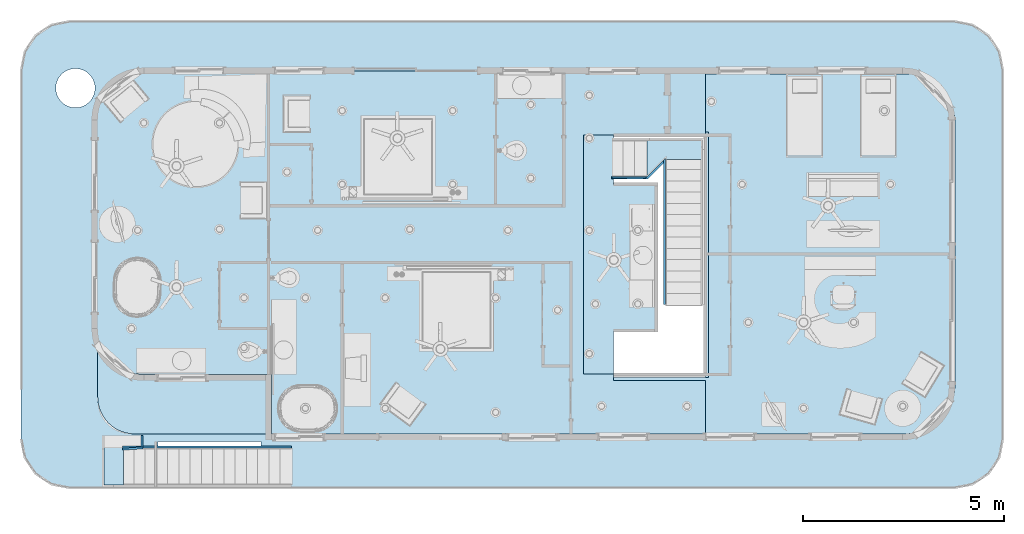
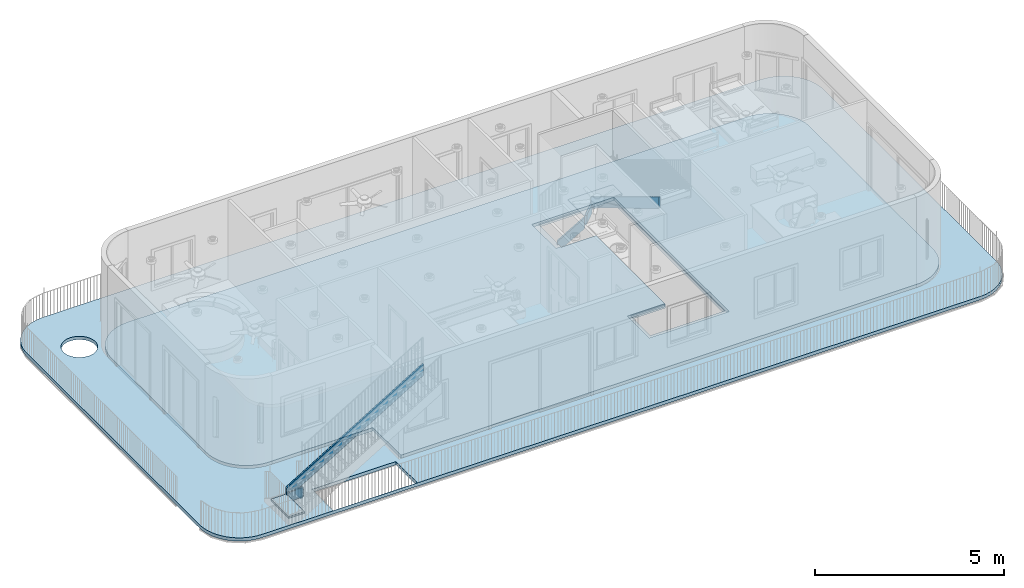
# One storey, part 1 of 28: 7 slabs, 6 members, 7 openings, 2 elements without a shape of their own.
"""IFC2X3 building model written with IfcOpenShell, lengths in feet."""

from ifc_helpers import new_model, entity, si_unit, converted_unit, derived_unit, direction, frame, frame_2d, origin, place, context, subcontext, project, spatial, polyline, circle_curve, parameter, trimmed, segment, composite_curve, rectangle, circle, outline, extrude, faceted_brep, material, layer, layer_set, layer_usage, element, aggregate, save


model = new_model("IFC2X3")

# Units and contexts
model_context = context("Model", 3, precision=0.0001, world=origin(), true_north=direction((6.12303176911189e-17, 1.0)))
body_context = subcontext(model_context, "Body", "Model", "MODEL_VIEW")
ifc_project = project(units=[converted_unit("LENGTHUNIT", "FOOT", entity("IfcRatioMeasure", 0.3048), si_unit("LENGTHUNIT", "METRE"), dimensions=[1, 0, 0, 0, 0, 0, 0]), converted_unit("AREAUNIT", "SQUARE FOOT", entity("IfcRatioMeasure", 0.09290304), si_unit("AREAUNIT", "SQUARE_METRE"), dimensions=[2, 0, 0, 0, 0, 0, 0]), converted_unit("VOLUMEUNIT", "CUBIC FOOT", entity("IfcRatioMeasure", 0.028316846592), si_unit("VOLUMEUNIT", "CUBIC_METRE"), dimensions=[3, 0, 0, 0, 0, 0, 0]), converted_unit("PLANEANGLEUNIT", "DEGREE", entity("IfcRatioMeasure", 0.0174532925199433), si_unit("PLANEANGLEUNIT", "RADIAN"), dimensions=[0, 0, 0, 0, 0, 0, 0]), si_unit("MASSUNIT", "GRAM", prefix="KILO"), derived_unit("MASSDENSITYUNIT", [(si_unit("MASSUNIT", "GRAM", prefix="KILO"), 1), (si_unit("LENGTHUNIT", "METRE"), -3)]), si_unit("TIMEUNIT", "SECOND"), si_unit("FREQUENCYUNIT", "HERTZ"), si_unit("THERMODYNAMICTEMPERATUREUNIT", "DEGREE_CELSIUS"), derived_unit("THERMALTRANSMITTANCEUNIT", [(si_unit("MASSUNIT", "GRAM", prefix="KILO"), 1), (si_unit("THERMODYNAMICTEMPERATUREUNIT", "KELVIN"), -1), (si_unit("TIMEUNIT", "SECOND"), -3)]), derived_unit("VOLUMETRICFLOWRATEUNIT", [(si_unit("LENGTHUNIT", "METRE"), 3), (si_unit("TIMEUNIT", "SECOND"), -1)]), si_unit("ELECTRICCURRENTUNIT", "AMPERE"), si_unit("ELECTRICVOLTAGEUNIT", "VOLT"), si_unit("POWERUNIT", "WATT"), si_unit("FORCEUNIT", "NEWTON"), si_unit("ILLUMINANCEUNIT", "LUX"), si_unit("LUMINOUSFLUXUNIT", "LUMEN"), si_unit("LUMINOUSINTENSITYUNIT", "CANDELA"), derived_unit("USERDEFINED", [(si_unit("MASSUNIT", "GRAM", prefix="KILO"), -1), (si_unit("LENGTHUNIT", "METRE"), -2), (si_unit("TIMEUNIT", "SECOND"), 3), (si_unit("LUMINOUSFLUXUNIT", "LUMEN"), 1)]), derived_unit("LINEARVELOCITYUNIT", [(si_unit("LENGTHUNIT", "METRE"), 1), (si_unit("TIMEUNIT", "SECOND"), -1)]), si_unit("PRESSUREUNIT", "PASCAL"), derived_unit("USERDEFINED", [(si_unit("LENGTHUNIT", "METRE"), -2), (si_unit("MASSUNIT", "GRAM", prefix="KILO"), 1), (si_unit("TIMEUNIT", "SECOND"), -2)])], contexts=[model_context])

# Site, building, storey
site_placement = place(None, origin())
site = spatial("IfcSite", under=ifc_project, at=site_placement, Name="表面", CompositionType="ELEMENT")
building_placement = place(site_placement, origin())
building = spatial("IfcBuilding", under=site, at=building_placement, CompositionType="ELEMENT")
storey_placement = place(building_placement, frame((0.0, 0.0, 10.0)))
storey = spatial("IfcBuildingStorey", under=building, at=storey_placement, Name="Level 2", CompositionType="ELEMENT", Elevation=9.99999999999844)

# Stair, members
stair_1_placement = place(storey_placement, origin())
stair_1 = element("IfcStair", 1, at=stair_1_placement, inside=storey, Name="楼梯:7\" max riser 11\" tread", ObjectType="楼梯:7\" max riser 11\" tread", ShapeType="NOTDEFINED")
ifc_material_1 = material(Name="Metal - Aluminum")
member_1_placement = place(stair_1_placement, origin())
member_1 = element("IfcMember", 2, at=member_1_placement, material=ifc_material_1, Name="楼梯:7\" max riser 11\" tread:2", ObjectType="楼梯:7\" max riser 11\" tread", context=body_context, shape_type="Brep", body=[
    faceted_brep([(8.11092024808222, 7.87145055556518, 0.716073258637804), (8.11092024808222, 8.03811722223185, 0.716073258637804), (8.11092024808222, 8.03811722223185, 0.0), (8.11092024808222, 7.87145055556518, 0.0), (10.7984202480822, 7.87145055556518, 2.2572918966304), (10.7984202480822, 7.87145055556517, 1.10452326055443), (10.9650869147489, 8.03811722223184, 1.20010271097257), (10.9650869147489, 8.03811722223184, 2.35287134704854), (8.87240781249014, 8.03811722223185, 0.0), (8.87240781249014, 7.87145055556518, 0.0)], [[[0, 1, 2, 3]], [[4, 5, 6, 7]], [[1, 0, 4, 7]], [[2, 1, 7, 6, 8]], [[8, 6, 5, 9]], [[0, 3, 9, 5, 4]], [[3, 2, 8, 9]]]),
])
member_2_placement = place(stair_1_placement, origin())
member_2 = element("IfcMember", 3, at=member_2_placement, material=ifc_material_1, Name="楼梯:7\" max riser 11\" tread:3", ObjectType="楼梯:7\" max riser 11\" tread", context=body_context, shape_type="SweptSolid", body=[
    extrude(outline(polyline([(-0.893993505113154, -0.0833333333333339), (0.893993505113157, -0.0833333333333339), (1.06066017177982, 0.0833333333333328), (-1.06066017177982, 0.0833333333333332), (-0.893993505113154, -0.0833333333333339)])), frame((11.6073458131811, 8.56252499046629, 1.47222222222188), z_axis=(0.0, 0.0, 1.0), x_axis=(0.70710678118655, 0.707106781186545, 0.0)), (0.0, 0.0, 1.0), 1.0),
])
member_3_placement = place(stair_1_placement, origin())
member_3 = element("IfcMember", 4, at=member_3_placement, material=ifc_material_1, Name="楼梯:7\" max riser 11\" tread:4", ObjectType="楼梯:7\" max riser 11\" tread", context=body_context, shape_type="Brep", body=[
    faceted_brep([(12.2984202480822, 9.37145055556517, 3.01914607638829), (12.4650869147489, 9.53811722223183, 2.91813597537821), (12.4650869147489, 9.53811722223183, 1.74881589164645), (12.2984202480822, 9.37145055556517, 1.84982599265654), (12.2984202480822, -2.37854944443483, 10.1403581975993), (12.2984202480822, -2.37854944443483, 8.97103811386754), (12.4650869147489, -2.37854944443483, 8.97103811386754), (12.4650869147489, -2.37854944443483, 10.1403581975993)], [[[0, 1, 2, 3]], [[4, 5, 6, 7]], [[1, 0, 4, 7]], [[2, 1, 7, 6]], [[3, 2, 6, 5]], [[0, 3, 5, 4]]]),
])

stair_2_placement = place(storey_placement, origin())
stair_2 = element("IfcStair", 5, at=stair_2_placement, inside=storey, Name="楼梯:7\" max riser 11\" tread", ObjectType="楼梯:7\" max riser 11\" tread", ShapeType="NOTDEFINED")
member_4_placement = place(stair_2_placement, origin())
member_4 = element("IfcMember", 6, at=member_4_placement, material=ifc_material_1, Name="楼梯:7\" max riser 11\" tread:1", ObjectType="楼梯:7\" max riser 11\" tread", context=body_context, shape_type="Brep", body=[
    faceted_brep([(-30.2640797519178, -13.0467729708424, 0.695913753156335), (-30.0974130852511, -13.0467729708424, 0.695913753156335), (-30.0974130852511, -13.0467729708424, 0.0), (-30.2640797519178, -13.0467729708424, 0.0), (-30.2640797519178, -13.9634396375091, 1.2514693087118), (-30.2640797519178, -13.9634396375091, 0.0821492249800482), (-30.0974130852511, -13.951865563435, 0.0751346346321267), (-30.0974130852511, -13.951865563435, 1.24445471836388), (-30.0974130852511, -13.827893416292, 0.0), (-30.2640797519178, -13.827893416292, 0.0)], [[[0, 1, 2, 3]], [[4, 5, 6, 7]], [[1, 0, 4, 7]], [[2, 1, 7, 6, 8]], [[8, 6, 5, 9]], [[0, 3, 9, 5, 4]], [[3, 2, 8, 9]]]),
])
member_5_placement = place(stair_2_placement, origin())
member_5 = element("IfcMember", 7, at=member_5_placement, material=ifc_material_1, Name="楼梯:7\" max riser 11\" tread:3", ObjectType="楼梯:7\" max riser 11\" tread", context=body_context, shape_type="SweptSolid", body=[
    extrude(outline(polyline([(-0.841127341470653, -0.0833333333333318), (0.829553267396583, -0.0833333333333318), (0.841127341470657, 0.0833333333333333), (-0.829553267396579, 0.0833333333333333), (-0.841127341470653, -0.0833333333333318)])), frame((-30.9307464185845, -14.0932699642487, 0.361111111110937), z_axis=(0.0, 0.0, 1.0), x_axis=(-0.99759742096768, -0.0692775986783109, 0.0)), (0.0, 0.0, 1.0), 1.0),
])
member_6_placement = place(stair_2_placement, origin())
member_6 = element("IfcMember", 8, at=member_6_placement, material=ifc_material_1, Name="楼梯:7\" max riser 11\" tread:4", ObjectType="楼梯:7\" max riser 11\" tread", context=body_context, shape_type="SweptSolid", body=[
    extrude(outline(polyline([(-7.73604527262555, -0.500000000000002), (8.34210587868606, -0.500000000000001), (7.73604527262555, 0.5), (-8.34210587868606, 0.499999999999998), (-7.73604527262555, -0.500000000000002)])), frame((-24.8890797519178, -14.0676063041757, 5.38903148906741), z_axis=(0.0, 1.0, 0.0), x_axis=(0.855197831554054, 0.0, 0.518301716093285)), (0.0, 0.0, 1.0), 0.166666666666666),
])

# Slab, openings
ifc_material_2 = material(Name="Metal - Deck")
ifc_layer_1 = layer(ifc_material_2, 0.333333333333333)
ifc_material_3 = material(Name="Carpet (2)")
ifc_layer_2 = layer(ifc_material_3, 0.0104166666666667)
ifc_layer_set = layer_set([ifc_layer_1, ifc_layer_2], Name="楼板:LW Concrete on Metal Deck")
ifc_layer_usage_1 = layer_usage(ifc_layer_set, "AXIS3", "POSITIVE", 0.0)
slab_1_placement = place(storey_placement, frame((-33.7849130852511, -12.9009396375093, -0.09375)))
slab_1 = element("IfcSlab", 9, at=slab_1_placement, inside=storey, material=ifc_layer_usage_1, Name="楼板:LW Concrete on Metal Deck", ObjectType="楼板:LW Concrete on Metal Deck", PredefinedType="FLOOR", context=body_context, shape_type="SweptSolid", body=[
    extrude(outline(composite_curve([segment(trimmed(circle_curve(frame_2d((-30.6666666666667, 10.6666666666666), x_axis=(-1.0, 0.0)), 4.0), [parameter(270.0)], [parameter(1.01777749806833e-13)], True, "PARAMETER"), True, "CONTINUOUS"), segment(polyline([(-34.6666666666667, 10.6666666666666), (-34.6666666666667, -10.6666666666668)]), True, "CONTINUOUS"), segment(trimmed(circle_curve(frame_2d((-30.6666666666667, -10.6666666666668), x_axis=(-1.0, 0.0)), 4.0), [parameter(1.01777749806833e-13)], [parameter(90.0000000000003)], True, "PARAMETER"), True, "CONTINUOUS"), segment(polyline([(-30.6666666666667, -14.6666666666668), (31.6666666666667, -14.6666666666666)]), True, "CONTINUOUS"), segment(trimmed(circle_curve(frame_2d((31.6666666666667, -11.6666666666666), x_axis=(-1.0, 0.0)), 3.0), [parameter(90.0000000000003)], [parameter(180.0)], True, "PARAMETER"), True, "CONTINUOUS"), segment(polyline([(34.6666666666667, -11.6666666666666), (34.6666666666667, 10.6666666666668)]), True, "CONTINUOUS"), segment(trimmed(circle_curve(frame_2d((30.6666666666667, 10.6666666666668), x_axis=(-1.0, 0.0)), 4.0), [parameter(180.0)], [parameter(270.0)], True, "PARAMETER"), True, "CONTINUOUS"), segment(polyline([(30.6666666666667, 14.6666666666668), (-30.6666666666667, 14.6666666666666)]), True, "CONTINUOUS")], self_intersect=False)), frame((34.6666666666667, 14.6666666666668, 0.34375), z_axis=(0.0, 0.0, -1.0), x_axis=(-1.0, 0.0, 0.0)), (0.0, 0.0, 1.0), 0.34375),
])
opening_1_placement = place(storey_placement, frame((-33.7849130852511, -12.9009396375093, -0.09375)))
element("IfcOpeningElement", 10, at=opening_1_placement, cuts=slab_1, ObjectType="Opening", context=body_context, shape_type="SweptSolid", body=[
    extrude(outline(polyline([(-14.8333333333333, 9.66666666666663), (-14.8333333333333, -9.81094314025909), (-7.3333333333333, -9.81094314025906), (-7.3333333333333, -6.33333333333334), (-10.8333333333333, -6.33333333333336), (-10.8333333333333, 5.66666666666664), (-7.33333333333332, 5.66666666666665), (-7.33333333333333, 9.66666666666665), (-14.8333333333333, 9.66666666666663)])), frame((34.6666666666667, 14.6666666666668, 0.34375), z_axis=(0.0, 0.0, -1.0), x_axis=(-1.0, 0.0, 0.0)), (0.0, 0.0, 1.0), 0.34375),
])
opening_2_placement = place(slab_1_placement, frame((43.5625, 14.6041666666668, 0.34375)))
element("IfcOpeningElement", 11, at=opening_2_placement, cuts=slab_1, Name="楼板:LW Concrete on Metal Deck:2", ObjectType="Opening", context=body_context, shape_type="SweptSolid", body=[
    extrude(outline(polyline([(-3.97916666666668, -10.2291666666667), (5.93749999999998, -10.2291666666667), (5.93750000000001, 10.2708333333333), (-3.97916666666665, 10.2708333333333), (-3.97916666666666, 4.9375), (2.02083333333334, 4.9375), (2.02083333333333, -4.97916666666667), (-3.97916666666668, -4.97916666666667), (-3.97916666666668, -10.2291666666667)])), frame((0.0, 0.0, 0.0), z_axis=(0.0, 0.0, -1.0), x_axis=(1.0, 0.0, 0.0)), (0.0, 0.0, 1.0), 0.34375),
])

# Slab
ifc_layer_usage_2 = layer_usage(ifc_layer_set, "AXIS3", "POSITIVE", 0.0)
slab_2_placement = place(storey_placement, origin())
element("IfcSlab", 12, at=slab_2_placement, inside=storey, material=ifc_layer_usage_2, Name="楼板:LW Concrete on Metal Deck", ObjectType="楼板:LW Concrete on Metal Deck", PredefinedType="FLOOR", context=body_context, shape_type="SweptSolid", body=[
    extrude(outline(polyline([(-2.68750000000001, -9.85898578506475), (-0.27083333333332, -9.85898578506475), (-0.27083333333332, -5.85898578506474), (3.22916666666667, -5.85898578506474), (3.22916666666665, 6.14101421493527), (-0.270833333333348, 6.14101421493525), (-0.270833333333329, 9.57695735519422), (-2.68750000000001, 9.57695735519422), (-2.68750000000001, -9.85898578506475)])), frame((8.48592024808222, 1.57340791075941, 0.25), z_axis=(0.0, 0.0, -1.0), x_axis=(1.0, 0.0, 0.0)), (0.0, 0.0, 1.0), 0.343750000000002),
])

# Slab, openings
ifc_layer_usage_3 = layer_usage(ifc_layer_set, "AXIS3", "POSITIVE", 0.0)
slab_3_placement = place(storey_placement, frame((-40.0349130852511, -17.2655229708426, 0.0)))
slab_3 = element("IfcSlab", 13, at=slab_3_placement, inside=storey, material=ifc_layer_usage_3, Name="楼板:LW Concrete on Metal Deck", ObjectType="楼板:LW Concrete on Metal Deck", PredefinedType="FLOOR", context=body_context, shape_type="SweptSolid", body=[
    extrude(outline(composite_curve([segment(polyline([(35.9583333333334, 19.0), (-35.9583333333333, 19.0)]), True, "CONTINUOUS"), segment(trimmed(circle_curve(frame_2d((-35.9583333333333, 15.0), x_axis=(1.0, 0.0)), 4.0), [parameter(89.9999999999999)], [parameter(180.0)], True, "PARAMETER"), True, "CONTINUOUS"), segment(polyline([(-39.9583333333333, 15.0), (-39.9583333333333, -15.0)]), True, "CONTINUOUS"), segment(trimmed(circle_curve(frame_2d((-35.9583333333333, -15.0), x_axis=(1.0, 0.0)), 4.0), [parameter(180.0)], [parameter(270.0)], True, "PARAMETER"), True, "CONTINUOUS"), segment(polyline([(-35.9583333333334, -19.0), (35.9583333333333, -19.0)]), True, "CONTINUOUS"), segment(trimmed(circle_curve(frame_2d((35.9583333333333, -15.0), x_axis=(1.0, 0.0)), 4.0), [parameter(270.0)], [parameter(360.0)], True, "PARAMETER"), True, "CONTINUOUS"), segment(polyline([(39.9583333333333, -15.0), (39.9583333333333, 15.0)]), True, "CONTINUOUS"), segment(trimmed(circle_curve(frame_2d((35.9583333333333, 15.0), x_axis=(1.0, 0.0)), 4.0), [parameter(360.0)], [parameter(89.9999999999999)], True, "PARAMETER"), True, "CONTINUOUS")], self_intersect=False)), frame((39.9583333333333, 19.0, 0.343750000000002)), (0.0, 0.0, -1.0), 0.34375),
])
opening_3_placement = place(storey_placement, frame((-40.0349130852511, -17.2655229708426, 0.0)))
element("IfcOpeningElement", 14, at=opening_3_placement, cuts=slab_3, ObjectType="Opening", context=body_context, shape_type="SweptSolid", body=[
    extrude(outline(polyline([(-15.7916666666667, 9.69791666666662), (-15.7916666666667, -9.77969314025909), (-8.29166666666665, -9.77969314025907), (-8.29166666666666, -6.30208333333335), (-11.7916666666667, -6.30208333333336), (-11.7916666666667, 5.69791666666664), (-8.29166666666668, 5.69791666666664), (-8.29166666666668, 9.69791666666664), (-15.7916666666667, 9.69791666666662)])), frame((39.9583333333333, 19.0, 0.343750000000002), z_axis=(0.0, 0.0, -1.0), x_axis=(-1.0, 0.0, 0.0)), (0.0, 0.0, 1.0), 0.34375),
])
opening_4_placement = place(storey_placement, frame((-40.0349130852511, -17.2655229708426, 0.0)))
element("IfcOpeningElement", 15, at=opening_4_placement, cuts=slab_3, ObjectType="Opening", context=body_context, shape_type="SweptSolid", body=[
    extrude(circle(Radius=1.59626665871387, at=frame_2d((35.52734375, 13.5312500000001), x_axis=(1.0, 0.0))), frame((39.9583333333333, 19.0, 0.343750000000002), z_axis=(0.0, 0.0, -1.0), x_axis=(-1.0, 0.0, 0.0)), (0.0, 0.0, 1.0), 0.34375),
])
opening_5_placement = place(storey_placement, frame((-40.0349130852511, -17.2655229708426, 0.0)))
element("IfcOpeningElement", 16, at=opening_5_placement, cuts=slab_3, ObjectType="Opening", context=body_context, shape_type="SweptSolid", body=[
    extrude(rectangle(XDim=8.41666666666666, YDim=3.7109216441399, at=frame_2d((24.6020445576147, -17.11328917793), x_axis=(1.0, 0.0))), frame((39.9583333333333, 19.0, 0.343750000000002), z_axis=(0.0, 0.0, -1.0), x_axis=(-1.0, 0.0, 0.0)), (0.0, 0.0, 1.0), 0.34375),
])

# Slab
slab_4_placement = place(stair_1_placement, origin())
slab_4 = element("IfcSlab", 17, at=slab_4_placement, material=ifc_material_1, Name="楼梯:7\" max riser 11\" tread:1", ObjectType="楼梯:7\" max riser 11\" tread", PredefinedType="LANDING", context=body_context, shape_type="Brep", body=[
    faceted_brep([(15.4650869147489, 9.4547838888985, 2.22222222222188), (15.4650869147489, 9.53811722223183, 2.22222222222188), (15.4650869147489, 11.0381172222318, 2.22222222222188), (10.9650869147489, 11.0381172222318, 2.22222222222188), (10.9650869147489, 8.03811722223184, 2.22222222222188), (12.4650869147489, 9.53811722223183, 2.22222222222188), (12.4650869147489, 9.4547838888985, 2.22222222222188), (15.4650869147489, 9.53811722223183, 2.05555555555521), (15.4650869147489, 9.4547838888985, 2.05555555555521), (12.4650869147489, 9.4547838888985, 2.05555555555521), (12.4650869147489, 9.53811722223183, 2.05555555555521), (11.0484202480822, 8.12145055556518, 2.05555555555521), (11.0484202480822, 11.0381172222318, 2.05555555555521), (15.4650869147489, 11.0381172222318, 2.05555555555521), (11.0484202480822, 11.0381172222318, 2.07638888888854), (10.9650869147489, 11.0381172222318, 2.15972222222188), (11.0484202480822, 8.12145055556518, 2.07638888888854), (10.9650869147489, 8.03811722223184, 2.15972222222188)], [[[0, 1, 2, 3, 4, 5, 6]], [[7, 8, 9, 10, 11, 12, 13]], [[1, 0, 8, 7]], [[2, 1, 7, 13]], [[3, 2, 13, 12, 14, 15]], [[12, 11, 16, 14]], [[5, 4, 17, 16, 11, 10]], [[6, 5, 10, 9]], [[0, 6, 9, 8]], [[17, 4, 3, 15]], [[16, 17, 15, 14]]]),
])

aggregate(stair_1, [slab_4, member_1, member_2, member_3])

slab_5_placement = place(stair_2_placement, origin())
slab_5 = element("IfcSlab", 18, at=slab_5_placement, material=ifc_material_1, Name="楼梯:7\" max riser 11\" tread:1", ObjectType="楼梯:7\" max riser 11\" tread", PredefinedType="LANDING", context=body_context, shape_type="Brep", body=[
    faceted_brep([(-31.6807464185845, -14.0676063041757, 1.11111111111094), (-31.7640797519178, -14.0676063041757, 1.11111111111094), (-31.4640797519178, -14.0467729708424, 1.11111111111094), (-31.4640797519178, -13.9634396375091, 1.11111111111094), (-33.2640797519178, -13.9634396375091, 1.11111111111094), (-33.2640797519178, -17.0676063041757, 1.11111111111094), (-31.7640797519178, -17.0676063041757, 1.11111111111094), (-31.6807464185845, -17.0676063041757, 1.11111111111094), (-31.7640797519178, -14.0676063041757, 0.944444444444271), (-31.6807464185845, -14.0676063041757, 0.944444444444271), (-31.6807464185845, -17.0676063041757, 0.944444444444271), (-31.7640797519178, -17.0676063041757, 0.944444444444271), (-33.2640797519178, -17.0676063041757, 0.944444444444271), (-33.2640797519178, -14.0467729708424, 0.944444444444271), (-31.4640797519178, -14.0467729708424, 0.944444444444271), (-31.4640797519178, -14.0467729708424, 0.965277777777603), (-33.2640797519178, -14.0467729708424, 0.965277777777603), (-33.2640797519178, -13.9634396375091, 1.04861111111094), (-31.4640797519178, -13.9634396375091, 1.04861111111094)], [[[0, 1, 2, 3, 4, 5, 6, 7]], [[8, 9, 10, 11, 12, 13, 14]], [[1, 0, 9, 8]], [[2, 1, 8, 14, 15]], [[14, 13, 16, 15]], [[5, 4, 17, 16, 13, 12]], [[6, 5, 12, 11]], [[7, 6, 11, 10]], [[0, 7, 10, 9]], [[18, 3, 2, 15]], [[17, 4, 3, 18]], [[16, 17, 18, 15]]]),
])

aggregate(stair_2, [slab_5, member_4, member_5, member_6])

# Slab, openings
ifc_layer_usage_4 = layer_usage(ifc_layer_set, "AXIS3", "POSITIVE", 0.0)
slab_6_placement = place(storey_placement, frame((-34.0349130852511, -12.9009396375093, -0.0104166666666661)))
slab_6 = element("IfcSlab", 19, at=slab_6_placement, inside=storey, material=ifc_layer_usage_4, Name="楼板:LW Concrete on Metal Deck", ObjectType="楼板:LW Concrete on Metal Deck", PredefinedType="FLOOR", context=body_context, shape_type="SweptSolid", body=[
    extrude(outline(composite_curve([segment(trimmed(circle_curve(frame_2d((-31.0416666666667, 10.6666666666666), x_axis=(-1.0, 0.0)), 4.0), [parameter(270.0)], [parameter(1.01777749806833e-13)], True, "PARAMETER"), True, "CONTINUOUS"), segment(polyline([(-35.0416666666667, 10.6666666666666), (-35.0416666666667, -10.6666666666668)]), True, "CONTINUOUS"), segment(trimmed(circle_curve(frame_2d((-31.0416666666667, -10.6666666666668), x_axis=(-1.0, 0.0)), 4.0), [parameter(1.01777749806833e-13)], [parameter(90.0000000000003)], True, "PARAMETER"), True, "CONTINUOUS"), segment(polyline([(-31.0416666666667, -14.6666666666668), (20.625, -14.6666666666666)]), True, "CONTINUOUS"), segment(polyline([(20.625, -14.6666666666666), (20.625, -9.83333333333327)]), True, "CONTINUOUS"), segment(polyline([(20.625, -9.83333333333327), (31.0416666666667, -9.83333333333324)]), True, "CONTINUOUS"), segment(trimmed(circle_curve(frame_2d((31.0416666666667, -5.83333333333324), x_axis=(-1.0, 0.0)), 4.0), [parameter(90.0000000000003)], [parameter(180.0)], True, "PARAMETER"), True, "CONTINUOUS"), segment(polyline([(35.0416666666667, -5.83333333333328), (35.0416666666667, 10.6666666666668)]), True, "CONTINUOUS"), segment(trimmed(circle_curve(frame_2d((31.0416666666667, 10.6666666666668), x_axis=(-1.0, 0.0)), 4.0), [parameter(180.0)], [parameter(270.0)], True, "PARAMETER"), True, "CONTINUOUS"), segment(polyline([(31.0416666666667, 14.6666666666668), (29.0416666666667, 14.6666666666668)]), True, "CONTINUOUS"), segment(polyline([(29.0416666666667, 14.6666666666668), (28.2916666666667, 14.6666666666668)]), True, "CONTINUOUS"), segment(polyline([(28.2916666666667, 14.6666666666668), (-31.0416666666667, 14.6666666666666)]), True, "CONTINUOUS")], self_intersect=False)), frame((35.0416666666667, 14.6666666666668, 0.34375), z_axis=(0.0, 0.0, -1.0), x_axis=(-1.0, 0.0, 0.0)), (0.0, 0.0, 1.0), 0.34375),
])
opening_6_placement = place(storey_placement, frame((-34.0349130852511, -12.9009396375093, -0.0104166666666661)))
element("IfcOpeningElement", 20, at=opening_6_placement, cuts=slab_6, ObjectType="Opening", context=body_context, shape_type="SweptSolid", body=[
    extrude(outline(polyline([(-14.7083333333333, 9.66666666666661), (-14.7083333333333, -9.8109431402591), (-7.20833333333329, -9.81094314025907), (-7.20833333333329, -6.33333333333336), (-10.7083333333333, -6.33333333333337), (-10.7083333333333, 5.66666666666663), (-7.20833333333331, 5.66666666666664), (-7.20833333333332, 9.66666666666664), (-14.7083333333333, 9.66666666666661)])), frame((35.0416666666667, 14.6666666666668, 0.34375), z_axis=(0.0, 0.0, -1.0), x_axis=(-1.0, 0.0, 0.0)), (0.0, 0.0, 1.0), 0.34375),
])
opening_7_placement = place(slab_6_placement, frame((44.875, 14.5000000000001, 0.343749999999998)))
element("IfcOpeningElement", 21, at=opening_7_placement, cuts=slab_6, Name="楼板:LW Concrete on Metal Deck:2", ObjectType="Opening", context=body_context, shape_type="SweptSolid", body=[
    extrude(outline(polyline([(-9.91666666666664, -2.87499999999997), (-6.08333333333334, -2.87499999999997), (-6.08333333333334, 0.874999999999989), (5.91666666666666, 0.874999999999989), (5.91666666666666, -3.12500000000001), (10.0833333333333, -3.12500000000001), (10.0833333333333, 5.12499999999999), (-9.91666666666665, 5.12499999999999), (-9.91666666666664, -2.87499999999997)])), frame((0.0, 0.0, 0.0), z_axis=(0.0, 0.0, -1.0), x_axis=(0.0, 1.0, 0.0)), (0.0, 0.0, 1.0), 0.34375),
])

# Slab
ifc_layer_usage_5 = layer_usage(ifc_layer_set, "AXIS3", "POSITIVE", 0.0)
slab_7_placement = place(storey_placement, origin())
element("IfcSlab", 22, at=slab_7_placement, inside=storey, material=ifc_layer_usage_5, Name="楼板:LW Concrete on Metal Deck", ObjectType="楼板:LW Concrete on Metal Deck", PredefinedType="FLOOR", context=body_context, shape_type="SweptSolid", body=[
    extrude(outline(composite_curve([segment(polyline([(-4.79687499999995, -31.0208333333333), (11.9531249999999, -31.0208333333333)]), True, "CONTINUOUS"), segment(trimmed(circle_curve(frame_2d((11.9531249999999, -27.0208333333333), x_axis=(0.0, -1.0)), 4.0), [parameter(0.0)], [parameter(89.9999999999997)], True, "PARAMETER"), True, "CONTINUOUS"), segment(polyline([(15.9531249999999, -27.0208333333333), (15.9531249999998, 18.7291666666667)]), True, "CONTINUOUS"), segment(polyline([(15.9531249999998, 18.7291666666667), (10.703125, 18.7291666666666)]), True, "CONTINUOUS"), segment(polyline([(10.703125, 18.7291666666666), (10.703125, 11.2291666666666)]), True, "CONTINUOUS"), segment(polyline([(10.703125, 11.2291666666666), (6.70312500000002, 11.2291666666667)]), True, "CONTINUOUS"), segment(polyline([(6.70312500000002, 11.2291666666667), (6.70312500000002, 14.7291666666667)]), True, "CONTINUOUS"), segment(polyline([(6.70312500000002, 14.7291666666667), (-5.21354166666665, 14.7291666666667)]), True, "CONTINUOUS"), segment(polyline([(-5.21354166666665, 14.7291666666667), (-5.21354166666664, 11.2291666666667)]), True, "CONTINUOUS"), segment(polyline([(-5.21354166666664, 11.2291666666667), (-9.29687499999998, 11.2291666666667)]), True, "CONTINUOUS"), segment(polyline([(-9.29687499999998, 11.2291666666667), (-9.29687499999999, 18.7291666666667)]), True, "CONTINUOUS"), segment(polyline([(-9.29687499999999, 18.7291666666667), (-13.6302083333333, 18.7291666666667)]), True, "CONTINUOUS"), segment(polyline([(-13.6302083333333, 18.7291666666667), (-13.6302083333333, -16.6041666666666)]), True, "CONTINUOUS"), segment(polyline([(-13.6302083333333, -16.6041666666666), (-8.79687499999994, -16.6041666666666)]), True, "CONTINUOUS"), segment(polyline([(-8.79687499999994, -16.6041666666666), (-8.79687499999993, -27.0208333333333)]), True, "CONTINUOUS"), segment(trimmed(circle_curve(frame_2d((-4.79687499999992, -27.0208333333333), x_axis=(-1.0, 0.0)), 4.0), [parameter(0.0)], [parameter(89.9999999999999)], True, "PARAMETER"), True, "CONTINUOUS")], self_intersect=False)), frame((-3.01407975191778, 0.729268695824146, 0.333333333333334), z_axis=(0.0, 0.0, -1.0), x_axis=(0.0, 1.0, 0.0)), (0.0, 0.0, 1.0), 0.343750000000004),
])

save(model, "model.ifc")
